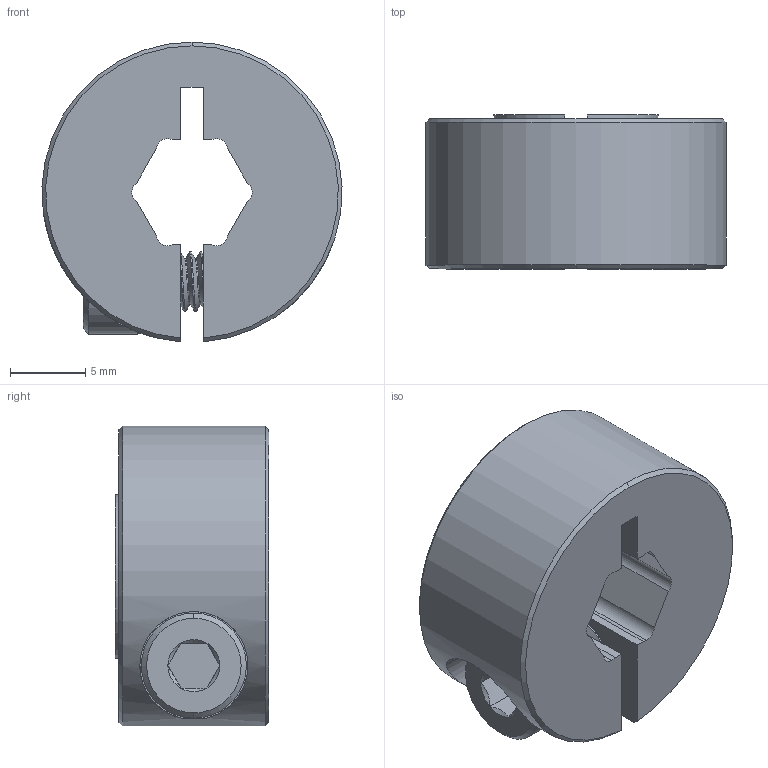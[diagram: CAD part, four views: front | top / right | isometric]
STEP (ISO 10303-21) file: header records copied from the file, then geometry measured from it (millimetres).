
FILE_DESCRIPTION (( 'STEP AP203' ), '1' );
FILE_NAME ('2910-1020-4008 assembly.STEP', '2019-04-25T18:26:35', ( '' ), ( '' ), 'SwSTEP 2.0', 'SolidWorks 2016', '' );
FILE_SCHEMA (( 'CONFIG_CONTROL_DESIGN' ));
Length unit declared in the file: millimetre
Products named in the file (3): 2800-0004-0010_90128A207; 2910-1020-4008; 2910-1020-4008 assembly
Assembly tree (2 placements, depth 2):
  2910-1020-4008 assembly
    2910-1020-4008
    2800-0004-0010_90128A207
Bounding box: 19.99 x 10.25 x 19.97 mm (x, y, z)
Volume: 2518.4 mm3; surface area: 2104.8 mm2
Topology: 2 solids, 2 shells, 175 faces, 487 edges, 319 vertices
Faces by surface type: cylinder 120, plane 28, cone 16, bspline 11
Entity records: 17600 total; most frequent: CARTESIAN_POINT 13512, ORIENTED_EDGE 974, DIRECTION 626, EDGE_CURVE 487, VERTEX_POINT 319, AXIS2_PLACEMENT_3D 226, EDGE_LOOP 182, FACE_OUTER_BOUND 175
